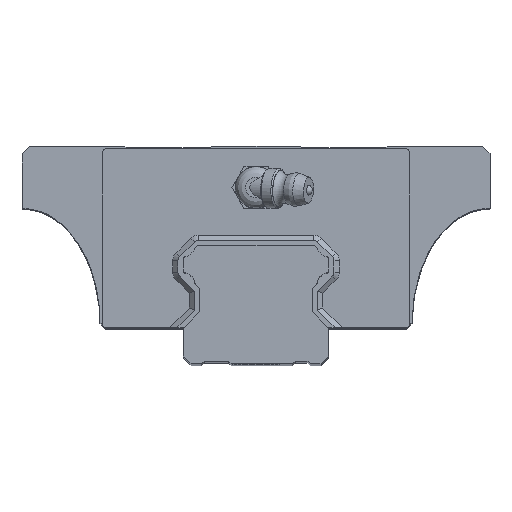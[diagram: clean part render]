
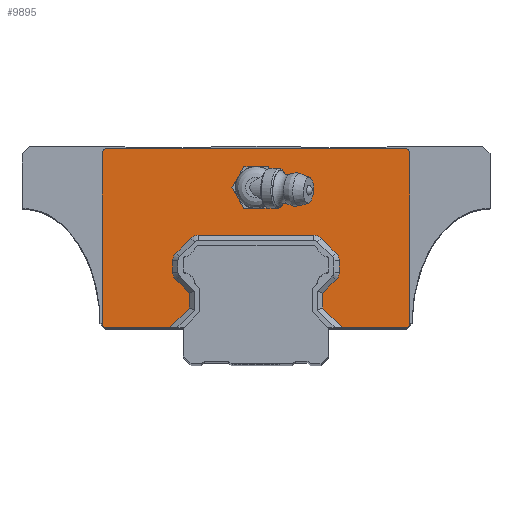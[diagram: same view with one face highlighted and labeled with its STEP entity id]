
A CAD part, top view. The second image highlights one B-rep face of the part: STEP entity #9895.
In plain terms, the highlighted planar face has unit normal (0, 0, 1).
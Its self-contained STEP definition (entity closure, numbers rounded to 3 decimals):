
#9655=CARTESIAN_POINT('',(3.,14.95,52.462));
#9656=VERTEX_POINT('',#9655);
#9657=CARTESIAN_POINT('',(0.,14.95,52.462));
#9658=DIRECTION('',(0.0,0.0,1.0));
#9659=DIRECTION('',(1.0,0.0,0.0));
#9660=AXIS2_PLACEMENT_3D('',#9657,#9658,#9659);
#9661=CIRCLE('',#9660,3.);
#9662=EDGE_CURVE('',#9656,#9656,#9661,.T.);
#9667=CARTESIAN_POINT('',(0.,-48.237,52.462));
#9668=DIRECTION('',(0.0,0.0,1.0));
#9669=DIRECTION('',(1.0,0.0,0.0));
#9670=AXIS2_PLACEMENT_3D('',#9667,#9668,#9669);
#9671=PLANE('',#9670);
#9672=CARTESIAN_POINT('',(-28.6,-12.05,52.462));
#9673=VERTEX_POINT('',#9672);
#9674=CARTESIAN_POINT('',(-16.628,-12.05,52.462));
#9675=VERTEX_POINT('',#9674);
#9676=CARTESIAN_POINT('',(-28.6,-12.05,52.462));
#9677=DIRECTION('',(1.0,0.0,0.0));
#9678=VECTOR('',#9677,11.972);
#9679=LINE('',#9676,#9678);
#9680=EDGE_CURVE('',#9673,#9675,#9679,.T.);
#9681=ORIENTED_EDGE('',*,*,#9680,.T.);
#9682=CARTESIAN_POINT('',(-12.8,-8.222,52.462));
#9683=VERTEX_POINT('',#9682);
#9684=CARTESIAN_POINT('',(-16.628,-12.05,52.462));
#9685=DIRECTION('',(0.707,0.707,0.0));
#9686=VECTOR('',#9685,5.414);
#9687=LINE('',#9684,#9686);
#9688=EDGE_CURVE('',#9675,#9683,#9687,.T.);
#9689=ORIENTED_EDGE('',*,*,#9688,.T.);
#9690=CARTESIAN_POINT('',(-12.8,-5.378,52.462));
#9691=VERTEX_POINT('',#9690);
#9692=CARTESIAN_POINT('',(-12.8,-8.222,52.462));
#9693=DIRECTION('',(0.0,1.0,0.0));
#9694=VECTOR('',#9693,2.843);
#9695=LINE('',#9692,#9694);
#9696=EDGE_CURVE('',#9683,#9691,#9695,.T.);
#9697=ORIENTED_EDGE('',*,*,#9696,.T.);
#9698=CARTESIAN_POINT('',(-15.414,-2.764,52.462));
#9699=VERTEX_POINT('',#9698);
#9700=CARTESIAN_POINT('',(-12.8,-5.378,52.462));
#9701=DIRECTION('',(-0.707,0.707,0.0));
#9702=VECTOR('',#9701,3.697);
#9703=LINE('',#9700,#9702);
#9704=EDGE_CURVE('',#9691,#9699,#9703,.T.);
#9705=ORIENTED_EDGE('',*,*,#9704,.T.);
#9706=CARTESIAN_POINT('',(-16.,-1.35,52.462));
#9707=VERTEX_POINT('',#9706);
#9708=CARTESIAN_POINT('',(-14.,-1.35,52.462));
#9709=DIRECTION('',(0.0,0.0,-1.0));
#9710=DIRECTION('',(1.0,0.0,0.0));
#9711=AXIS2_PLACEMENT_3D('',#9708,#9709,#9710);
#9712=CIRCLE('',#9711,2.);
#9713=EDGE_CURVE('',#9699,#9707,#9712,.T.);
#9714=ORIENTED_EDGE('',*,*,#9713,.T.);
#9715=CARTESIAN_POINT('',(-16.,0.895,52.462));
#9716=VERTEX_POINT('',#9715);
#9717=CARTESIAN_POINT('',(-16.,-1.35,52.462));
#9718=DIRECTION('',(0.,1.0,0.0));
#9719=VECTOR('',#9718,2.245);
#9720=LINE('',#9717,#9719);
#9721=EDGE_CURVE('',#9707,#9716,#9720,.T.);
#9722=ORIENTED_EDGE('',*,*,#9721,.T.);
#9723=CARTESIAN_POINT('',(-15.414,2.309,52.462));
#9724=VERTEX_POINT('',#9723);
#9725=CARTESIAN_POINT('',(-14.,0.894,52.462));
#9726=DIRECTION('',(0.0,0.0,-1.0));
#9727=DIRECTION('',(1.0,0.0,0.0));
#9728=AXIS2_PLACEMENT_3D('',#9725,#9726,#9727);
#9729=CIRCLE('',#9728,2.);
#9730=EDGE_CURVE('',#9716,#9724,#9729,.T.);
#9731=ORIENTED_EDGE('',*,*,#9730,.T.);
#9732=CARTESIAN_POINT('',(-12.559,5.164,52.462));
#9733=VERTEX_POINT('',#9732);
#9734=CARTESIAN_POINT('',(-15.414,2.309,52.462));
#9735=DIRECTION('',(0.707,0.707,0.0));
#9736=VECTOR('',#9735,4.038);
#9737=LINE('',#9734,#9736);
#9738=EDGE_CURVE('',#9724,#9733,#9737,.T.);
#9739=ORIENTED_EDGE('',*,*,#9738,.T.);
#9740=CARTESIAN_POINT('',(-11.145,5.75,52.462));
#9741=VERTEX_POINT('',#9740);
#9742=CARTESIAN_POINT('',(-11.144,3.75,52.462));
#9743=DIRECTION('',(0.0,0.0,-1.0));
#9744=DIRECTION('',(1.0,0.0,0.0));
#9745=AXIS2_PLACEMENT_3D('',#9742,#9743,#9744);
#9746=CIRCLE('',#9745,2.);
#9747=EDGE_CURVE('',#9733,#9741,#9746,.T.);
#9748=ORIENTED_EDGE('',*,*,#9747,.T.);
#9749=CARTESIAN_POINT('',(11.144,5.75,52.462));
#9750=VERTEX_POINT('',#9749);
#9751=CARTESIAN_POINT('',(-11.145,5.75,52.462));
#9752=DIRECTION('',(1.0,0.,0.0));
#9753=VECTOR('',#9752,22.289);
#9754=LINE('',#9751,#9753);
#9755=EDGE_CURVE('',#9741,#9750,#9754,.T.);
#9756=ORIENTED_EDGE('',*,*,#9755,.T.);
#9757=CARTESIAN_POINT('',(12.559,5.164,52.462));
#9758=VERTEX_POINT('',#9757);
#9759=CARTESIAN_POINT('',(11.144,3.75,52.462));
#9760=DIRECTION('',(0.0,0.0,-1.0));
#9761=DIRECTION('',(1.0,0.0,0.0));
#9762=AXIS2_PLACEMENT_3D('',#9759,#9760,#9761);
#9763=CIRCLE('',#9762,2.);
#9764=EDGE_CURVE('',#9750,#9758,#9763,.T.);
#9765=ORIENTED_EDGE('',*,*,#9764,.T.);
#9766=CARTESIAN_POINT('',(15.414,2.309,52.462));
#9767=VERTEX_POINT('',#9766);
#9768=CARTESIAN_POINT('',(12.559,5.164,52.462));
#9769=DIRECTION('',(0.707,-0.707,0.0));
#9770=VECTOR('',#9769,4.038);
#9771=LINE('',#9768,#9770);
#9772=EDGE_CURVE('',#9758,#9767,#9771,.T.);
#9773=ORIENTED_EDGE('',*,*,#9772,.T.);
#9774=CARTESIAN_POINT('',(16.,0.895,52.462));
#9775=VERTEX_POINT('',#9774);
#9776=CARTESIAN_POINT('',(14.,0.894,52.462));
#9777=DIRECTION('',(0.0,0.0,-1.0));
#9778=DIRECTION('',(1.0,0.0,0.0));
#9779=AXIS2_PLACEMENT_3D('',#9776,#9777,#9778);
#9780=CIRCLE('',#9779,2.);
#9781=EDGE_CURVE('',#9767,#9775,#9780,.T.);
#9782=ORIENTED_EDGE('',*,*,#9781,.T.);
#9783=CARTESIAN_POINT('',(16.,-1.35,52.462));
#9784=VERTEX_POINT('',#9783);
#9785=CARTESIAN_POINT('',(16.,0.895,52.462));
#9786=DIRECTION('',(0.,-1.0,0.0));
#9787=VECTOR('',#9786,2.245);
#9788=LINE('',#9785,#9787);
#9789=EDGE_CURVE('',#9775,#9784,#9788,.T.);
#9790=ORIENTED_EDGE('',*,*,#9789,.T.);
#9791=CARTESIAN_POINT('',(15.414,-2.764,52.462));
#9792=VERTEX_POINT('',#9791);
#9793=CARTESIAN_POINT('',(14.,-1.35,52.462));
#9794=DIRECTION('',(0.0,0.0,-1.0));
#9795=DIRECTION('',(1.0,0.0,0.0));
#9796=AXIS2_PLACEMENT_3D('',#9793,#9794,#9795);
#9797=CIRCLE('',#9796,2.);
#9798=EDGE_CURVE('',#9784,#9792,#9797,.T.);
#9799=ORIENTED_EDGE('',*,*,#9798,.T.);
#9800=CARTESIAN_POINT('',(12.8,-5.378,52.462));
#9801=VERTEX_POINT('',#9800);
#9802=CARTESIAN_POINT('',(15.414,-2.764,52.462));
#9803=DIRECTION('',(-0.707,-0.707,0.0));
#9804=VECTOR('',#9803,3.697);
#9805=LINE('',#9802,#9804);
#9806=EDGE_CURVE('',#9792,#9801,#9805,.T.);
#9807=ORIENTED_EDGE('',*,*,#9806,.T.);
#9808=CARTESIAN_POINT('',(12.8,-8.222,52.462));
#9809=VERTEX_POINT('',#9808);
#9810=CARTESIAN_POINT('',(12.8,-5.378,52.462));
#9811=DIRECTION('',(0.0,-1.0,0.0));
#9812=VECTOR('',#9811,2.843);
#9813=LINE('',#9810,#9812);
#9814=EDGE_CURVE('',#9801,#9809,#9813,.T.);
#9815=ORIENTED_EDGE('',*,*,#9814,.T.);
#9816=CARTESIAN_POINT('',(16.628,-12.05,52.462));
#9817=VERTEX_POINT('',#9816);
#9818=CARTESIAN_POINT('',(12.8,-8.222,52.462));
#9819=DIRECTION('',(0.707,-0.707,0.0));
#9820=VECTOR('',#9819,5.414);
#9821=LINE('',#9818,#9820);
#9822=EDGE_CURVE('',#9809,#9817,#9821,.T.);
#9823=ORIENTED_EDGE('',*,*,#9822,.T.);
#9824=CARTESIAN_POINT('',(28.6,-12.05,52.462));
#9825=VERTEX_POINT('',#9824);
#9826=CARTESIAN_POINT('',(16.628,-12.05,52.462));
#9827=DIRECTION('',(1.0,0.0,0.0));
#9828=VECTOR('',#9827,11.972);
#9829=LINE('',#9826,#9828);
#9830=EDGE_CURVE('',#9817,#9825,#9829,.T.);
#9831=ORIENTED_EDGE('',*,*,#9830,.T.);
#9832=CARTESIAN_POINT('',(29.6,-11.05,52.462));
#9833=VERTEX_POINT('',#9832);
#9834=CARTESIAN_POINT('',(28.6,-11.05,52.462));
#9835=DIRECTION('',(0.0,0.0,1.0));
#9836=DIRECTION('',(1.0,0.0,0.0));
#9837=AXIS2_PLACEMENT_3D('',#9834,#9835,#9836);
#9838=CIRCLE('',#9837,1.);
#9839=EDGE_CURVE('',#9825,#9833,#9838,.T.);
#9840=ORIENTED_EDGE('',*,*,#9839,.T.);
#9841=CARTESIAN_POINT('',(29.6,21.45,52.462));
#9842=VERTEX_POINT('',#9841);
#9843=CARTESIAN_POINT('',(29.6,-11.05,52.462));
#9844=DIRECTION('',(0.0,1.0,0.0));
#9845=VECTOR('',#9844,32.5);
#9846=LINE('',#9843,#9845);
#9847=EDGE_CURVE('',#9833,#9842,#9846,.T.);
#9848=ORIENTED_EDGE('',*,*,#9847,.T.);
#9849=CARTESIAN_POINT('',(28.6,22.45,52.462));
#9850=VERTEX_POINT('',#9849);
#9851=CARTESIAN_POINT('',(28.6,21.45,52.462));
#9852=DIRECTION('',(0.0,0.0,1.0));
#9853=DIRECTION('',(1.0,0.0,0.0));
#9854=AXIS2_PLACEMENT_3D('',#9851,#9852,#9853);
#9855=CIRCLE('',#9854,1.);
#9856=EDGE_CURVE('',#9842,#9850,#9855,.T.);
#9857=ORIENTED_EDGE('',*,*,#9856,.T.);
#9858=CARTESIAN_POINT('',(-28.6,22.45,52.462));
#9859=VERTEX_POINT('',#9858);
#9860=CARTESIAN_POINT('',(28.6,22.45,52.462));
#9861=DIRECTION('',(-1.0,0.0,0.0));
#9862=VECTOR('',#9861,57.2);
#9863=LINE('',#9860,#9862);
#9864=EDGE_CURVE('',#9850,#9859,#9863,.T.);
#9865=ORIENTED_EDGE('',*,*,#9864,.T.);
#9866=CARTESIAN_POINT('',(-29.6,21.45,52.462));
#9867=VERTEX_POINT('',#9866);
#9868=CARTESIAN_POINT('',(-28.6,21.45,52.462));
#9869=DIRECTION('',(0.0,0.0,1.0));
#9870=DIRECTION('',(1.0,0.0,0.0));
#9871=AXIS2_PLACEMENT_3D('',#9868,#9869,#9870);
#9872=CIRCLE('',#9871,1.);
#9873=EDGE_CURVE('',#9859,#9867,#9872,.T.);
#9874=ORIENTED_EDGE('',*,*,#9873,.T.);
#9875=CARTESIAN_POINT('',(-29.6,-11.05,52.462));
#9876=VERTEX_POINT('',#9875);
#9877=CARTESIAN_POINT('',(-29.6,21.45,52.462));
#9878=DIRECTION('',(0.0,-1.0,0.0));
#9879=VECTOR('',#9878,32.5);
#9880=LINE('',#9877,#9879);
#9881=EDGE_CURVE('',#9867,#9876,#9880,.T.);
#9882=ORIENTED_EDGE('',*,*,#9881,.T.);
#9883=CARTESIAN_POINT('',(-28.6,-11.05,52.462));
#9884=DIRECTION('',(0.0,0.0,1.0));
#9885=DIRECTION('',(1.0,0.0,0.0));
#9886=AXIS2_PLACEMENT_3D('',#9883,#9884,#9885);
#9887=CIRCLE('',#9886,1.);
#9888=EDGE_CURVE('',#9876,#9673,#9887,.T.);
#9889=ORIENTED_EDGE('',*,*,#9888,.T.);
#9890=EDGE_LOOP('',(#9681,#9689,#9697,#9705,#9714,#9722,#9731,#9739,#9748,#9756,#9765,#9773,#9782,#9790,#9799,#9807,#9815,#9823,#9831,#9840,#9848,#9857,#9865,#9874,#9882,#9889));
#9891=FACE_OUTER_BOUND('',#9890,.T.);
#9892=ORIENTED_EDGE('',*,*,#9662,.F.);
#9893=EDGE_LOOP('',(#9892));
#9894=FACE_BOUND('',#9893,.T.);
#9895=ADVANCED_FACE('',(#9891,#9894),#9671,.T.);
